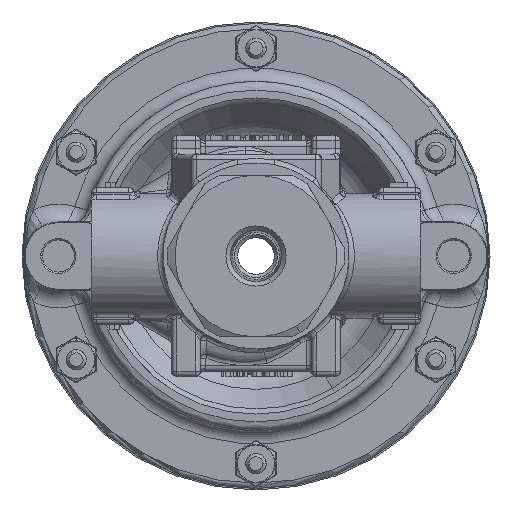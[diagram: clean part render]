
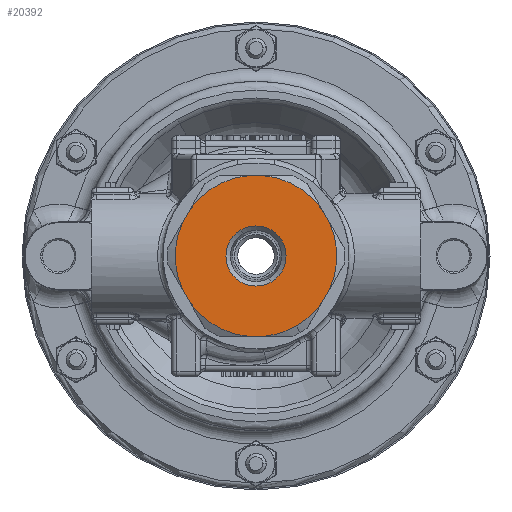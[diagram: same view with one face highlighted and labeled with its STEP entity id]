
A CAD part, front view. The second image highlights one B-rep face of the part: STEP entity #20392.
In plain terms, the highlighted planar face has unit normal (0, -1, 0) as drawn and (-1, 0, 0) by its records, which use the part's own axes.
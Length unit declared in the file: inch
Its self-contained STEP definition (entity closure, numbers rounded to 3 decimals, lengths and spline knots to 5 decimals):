
#14369 = VERTEX_POINT ( 'NONE', #21210 ) ;
#14371 = VERTEX_POINT ( 'NONE', #21212 ) ;
#14372 = VERTEX_POINT ( 'NONE', #21213 ) ;
#14375 = VERTEX_POINT ( 'NONE', #21216 ) ;
#14379 = VERTEX_POINT ( 'NONE', #21220 ) ;
#14380 = VERTEX_POINT ( 'NONE', #21221 ) ;
#14384 = VERTEX_POINT ( 'NONE', #21225 ) ;
#14385 = VERTEX_POINT ( 'NONE', #21226 ) ;
#14390 = VERTEX_POINT ( 'NONE', #21231 ) ;
#14391 = VERTEX_POINT ( 'NONE', #21232 ) ;
#14393 = VERTEX_POINT ( 'NONE', #21234 ) ;
#14406 = VERTEX_POINT ( 'NONE', #21247 ) ;
#14431 = VERTEX_POINT ( 'NONE', #21272 ) ;
#14432 = VERTEX_POINT ( 'NONE', #21273 ) ;
#14455 = VERTEX_POINT ( 'NONE', #21301 ) ;
#16277 = EDGE_LOOP ( 'NONE', ( #33817, #33818 ) ) ;
#16539 = EDGE_LOOP ( 'NONE', ( #33804, #33805, #33806, #33807, #33808, #33809, #33810, #33811, #33812, #33813, #33814, #33815, #33816 ) ) ;
#20392 = ADVANCED_FACE ( 'NONE', ( #47148, #47156 ), #67310, .T. ) ;
#21210 = CARTESIAN_POINT ( 'NONE',  ( -0.375, -0.75, 0.07194 ) ) ;
#21212 = CARTESIAN_POINT ( 'NONE',  ( -0.375, -0.75, -0.07194 ) ) ;
#21213 = CARTESIAN_POINT ( 'NONE',  ( -0.375, -0.4373, -0.61355 ) ) ;
#21216 = CARTESIAN_POINT ( 'NONE',  ( -0.375, 0.3127, -0.68549 ) ) ;
#21220 = CARTESIAN_POINT ( 'NONE',  ( -0.375, 0.75, -0.07194 ) ) ;
#21221 = CARTESIAN_POINT ( 'NONE',  ( -0.375, 0.4373, -0.61355 ) ) ;
#21225 = CARTESIAN_POINT ( 'NONE',  ( -0.375, 0.4373, 0.61355 ) ) ;
#21226 = CARTESIAN_POINT ( 'NONE',  ( -0.375, 0.75, 0.07194 ) ) ;
#21231 = CARTESIAN_POINT ( 'NONE',  ( -0.375, -0.3127, 0.68549 ) ) ;
#21232 = CARTESIAN_POINT ( 'NONE',  ( -0.375, 0.3127, 0.68549 ) ) ;
#21234 = CARTESIAN_POINT ( 'NONE',  ( -0.375, -0.4373, 0.61355 ) ) ;
#21247 = CARTESIAN_POINT ( 'NONE',  ( -0.375, 0., -0.75344 ) ) ;
#21272 = CARTESIAN_POINT ( 'NONE',  ( -0.375, 0., -0.28054 ) ) ;
#21273 = CARTESIAN_POINT ( 'NONE',  ( -0.375, 0., 0.28054 ) ) ;
#21301 = CARTESIAN_POINT ( 'NONE',  ( -0.375, -0.3127, -0.68549 ) ) ;
#26318 = AXIS2_PLACEMENT_3D ( 'NONE', #67312, #67317, #67318 ) ;
#29995 = EDGE_CURVE ( 'NONE', #14432, #14431, #38930, .T. ) ;
#30059 = EDGE_CURVE ( 'NONE', #14455, #14406, #39015, .T. ) ;
#30099 = EDGE_CURVE ( 'NONE', #14393, #14390, #39070, .T. ) ;
#30110 = EDGE_CURVE ( 'NONE', #14391, #14384, #39083, .T. ) ;
#30122 = EDGE_CURVE ( 'NONE', #14385, #14379, #39094, .T. ) ;
#30132 = EDGE_CURVE ( 'NONE', #14380, #14375, #39105, .T. ) ;
#30143 = EDGE_CURVE ( 'NONE', #14455, #14372, #39118, .T. ) ;
#30153 = EDGE_CURVE ( 'NONE', #14371, #14369, #39131, .T. ) ;
#30160 = EDGE_CURVE ( 'NONE', #14371, #14372, #39127, .T. ) ;
#30163 = EDGE_CURVE ( 'NONE', #14393, #14369, #39138, .T. ) ;
#30166 = EDGE_CURVE ( 'NONE', #14406, #14375, #39136, .T. ) ;
#30172 = EDGE_CURVE ( 'NONE', #14380, #14379, #39146, .T. ) ;
#30176 = EDGE_CURVE ( 'NONE', #14385, #14384, #39150, .T. ) ;
#30181 = EDGE_CURVE ( 'NONE', #14391, #14390, #39153, .T. ) ;
#30188 = EDGE_CURVE ( 'NONE', #14431, #14432, #39158, .T. ) ;
#33804 = ORIENTED_EDGE ( 'NONE', *, *, #30163, .F. ) ;
#33805 = ORIENTED_EDGE ( 'NONE', *, *, #30099, .T. ) ;
#33806 = ORIENTED_EDGE ( 'NONE', *, *, #30181, .F. ) ;
#33807 = ORIENTED_EDGE ( 'NONE', *, *, #30110, .T. ) ;
#33808 = ORIENTED_EDGE ( 'NONE', *, *, #30176, .F. ) ;
#33809 = ORIENTED_EDGE ( 'NONE', *, *, #30122, .T. ) ;
#33810 = ORIENTED_EDGE ( 'NONE', *, *, #30172, .F. ) ;
#33811 = ORIENTED_EDGE ( 'NONE', *, *, #30132, .T. ) ;
#33812 = ORIENTED_EDGE ( 'NONE', *, *, #30166, .F. ) ;
#33813 = ORIENTED_EDGE ( 'NONE', *, *, #30059, .F. ) ;
#33814 = ORIENTED_EDGE ( 'NONE', *, *, #30143, .T. ) ;
#33815 = ORIENTED_EDGE ( 'NONE', *, *, #30160, .F. ) ;
#33816 = ORIENTED_EDGE ( 'NONE', *, *, #30153, .T. ) ;
#33817 = ORIENTED_EDGE ( 'NONE', *, *, #29995, .T. ) ;
#33818 = ORIENTED_EDGE ( 'NONE', *, *, #30188, .T. ) ;
#38930 = CIRCLE ( 'NONE', #52282, 0.28054 ) ;
#39015 = CIRCLE ( 'NONE', #52298, 0.75344 ) ;
#39070 = LINE ( 'NONE', #53474, #39073 ) ;
#39073 = VECTOR ( 'NONE', #53476, 39.37008 ) ;
#39083 = LINE ( 'NONE', #53491, #39085 ) ;
#39085 = VECTOR ( 'NONE', #53492, 39.37008 ) ;
#39094 = LINE ( 'NONE', #53509, #39097 ) ;
#39097 = VECTOR ( 'NONE', #53510, 39.37008 ) ;
#39105 = LINE ( 'NONE', #53527, #39108 ) ;
#39108 = VECTOR ( 'NONE', #53528, 39.37008 ) ;
#39118 = LINE ( 'NONE', #53543, #39121 ) ;
#39121 = VECTOR ( 'NONE', #53544, 39.37008 ) ;
#39127 = CIRCLE ( 'NONE', #52308, 0.75344 ) ;
#39131 = LINE ( 'NONE', #53555, #39133 ) ;
#39133 = VECTOR ( 'NONE', #53556, 39.37008 ) ;
#39136 = CIRCLE ( 'NONE', #52311, 0.75344 ) ;
#39138 = CIRCLE ( 'NONE', #52310, 0.75344 ) ;
#39146 = CIRCLE ( 'NONE', #52314, 0.75344 ) ;
#39150 = CIRCLE ( 'NONE', #52316, 0.75344 ) ;
#39153 = CIRCLE ( 'NONE', #52318, 0.75344 ) ;
#39158 = CIRCLE ( 'NONE', #52321, 0.28054 ) ;
#47148 = FACE_OUTER_BOUND ( 'NONE', #16539, .T. ) ;
#47156 = FACE_BOUND ( 'NONE', #16277, .T. ) ;
#52282 = AXIS2_PLACEMENT_3D ( 'NONE', #53349, #53350, #53351 ) ;
#52298 = AXIS2_PLACEMENT_3D ( 'NONE', #53422, #53423, #53424 ) ;
#52308 = AXIS2_PLACEMENT_3D ( 'NONE', #53566, #53567, #53568 ) ;
#52310 = AXIS2_PLACEMENT_3D ( 'NONE', #53572, #53573, #53574 ) ;
#52311 = AXIS2_PLACEMENT_3D ( 'NONE', #53575, #53576, #53577 ) ;
#52314 = AXIS2_PLACEMENT_3D ( 'NONE', #53584, #53585, #53586 ) ;
#52316 = AXIS2_PLACEMENT_3D ( 'NONE', #53590, #53591, #53592 ) ;
#52318 = AXIS2_PLACEMENT_3D ( 'NONE', #53596, #53597, #53598 ) ;
#52321 = AXIS2_PLACEMENT_3D ( 'NONE', #53605, #53606, #53607 ) ;
#53349 = CARTESIAN_POINT ( 'NONE',  ( -0.375, 0., 0. ) ) ;
#53350 = DIRECTION ( 'NONE',  ( 1., 0., 0. ) ) ;
#53351 = DIRECTION ( 'NONE',  ( 0., 0., 1. ) ) ;
#53422 = CARTESIAN_POINT ( 'NONE',  ( -0.375, 0., 0. ) ) ;
#53423 = DIRECTION ( 'NONE',  ( 1., 0., 0. ) ) ;
#53424 = DIRECTION ( 'NONE',  ( 0., 0., -1. ) ) ;
#53474 = CARTESIAN_POINT ( 'NONE',  ( -0.375, -0.75, 0.43301 ) ) ;
#53476 = DIRECTION ( 'NONE',  ( 0., 0.866, 0.5 ) ) ;
#53491 = CARTESIAN_POINT ( 'NONE',  ( -0.375, 0., 0.86603 ) ) ;
#53492 = DIRECTION ( 'NONE',  ( 0., 0.866, -0.5 ) ) ;
#53509 = CARTESIAN_POINT ( 'NONE',  ( -0.375, 0.75, 0.43301 ) ) ;
#53510 = DIRECTION ( 'NONE',  ( 0., 0., -1. ) ) ;
#53527 = CARTESIAN_POINT ( 'NONE',  ( -0.375, 0.75, -0.43301 ) ) ;
#53528 = DIRECTION ( 'NONE',  ( 0., -0.866, -0.5 ) ) ;
#53543 = CARTESIAN_POINT ( 'NONE',  ( -0.375, 0., -0.86603 ) ) ;
#53544 = DIRECTION ( 'NONE',  ( 0., -0.866, 0.5 ) ) ;
#53555 = CARTESIAN_POINT ( 'NONE',  ( -0.375, -0.75, -0.43301 ) ) ;
#53556 = DIRECTION ( 'NONE',  ( 0., 0., 1. ) ) ;
#53566 = CARTESIAN_POINT ( 'NONE',  ( -0.375, 0., 0. ) ) ;
#53567 = DIRECTION ( 'NONE',  ( 1., 0., 0. ) ) ;
#53568 = DIRECTION ( 'NONE',  ( 0., 0., -1. ) ) ;
#53572 = CARTESIAN_POINT ( 'NONE',  ( -0.375, 0., 0. ) ) ;
#53573 = DIRECTION ( 'NONE',  ( 1., 0., 0. ) ) ;
#53574 = DIRECTION ( 'NONE',  ( 0., 0., -1. ) ) ;
#53575 = CARTESIAN_POINT ( 'NONE',  ( -0.375, 0., 0. ) ) ;
#53576 = DIRECTION ( 'NONE',  ( 1., 0., 0. ) ) ;
#53577 = DIRECTION ( 'NONE',  ( 0., 0., -1. ) ) ;
#53584 = CARTESIAN_POINT ( 'NONE',  ( -0.375, 0., 0. ) ) ;
#53585 = DIRECTION ( 'NONE',  ( 1., 0., 0. ) ) ;
#53586 = DIRECTION ( 'NONE',  ( 0., 0., -1. ) ) ;
#53590 = CARTESIAN_POINT ( 'NONE',  ( -0.375, 0., 0. ) ) ;
#53591 = DIRECTION ( 'NONE',  ( 1., 0., 0. ) ) ;
#53592 = DIRECTION ( 'NONE',  ( 0., 0., -1. ) ) ;
#53596 = CARTESIAN_POINT ( 'NONE',  ( -0.375, 0., 0. ) ) ;
#53597 = DIRECTION ( 'NONE',  ( 1., 0., 0. ) ) ;
#53598 = DIRECTION ( 'NONE',  ( 0., 0., -1. ) ) ;
#53605 = CARTESIAN_POINT ( 'NONE',  ( -0.375, 0., 0. ) ) ;
#53606 = DIRECTION ( 'NONE',  ( 1., 0., 0. ) ) ;
#53607 = DIRECTION ( 'NONE',  ( 0., 0., 1. ) ) ;
#67310 = PLANE ( 'NONE',  #26318 ) ;
#67312 = CARTESIAN_POINT ( 'NONE',  ( -0.375, 0., 0. ) ) ;
#67317 = DIRECTION ( 'NONE',  ( -1., 0., 0. ) ) ;
#67318 = DIRECTION ( 'NONE',  ( 0., 0., 1. ) ) ;
